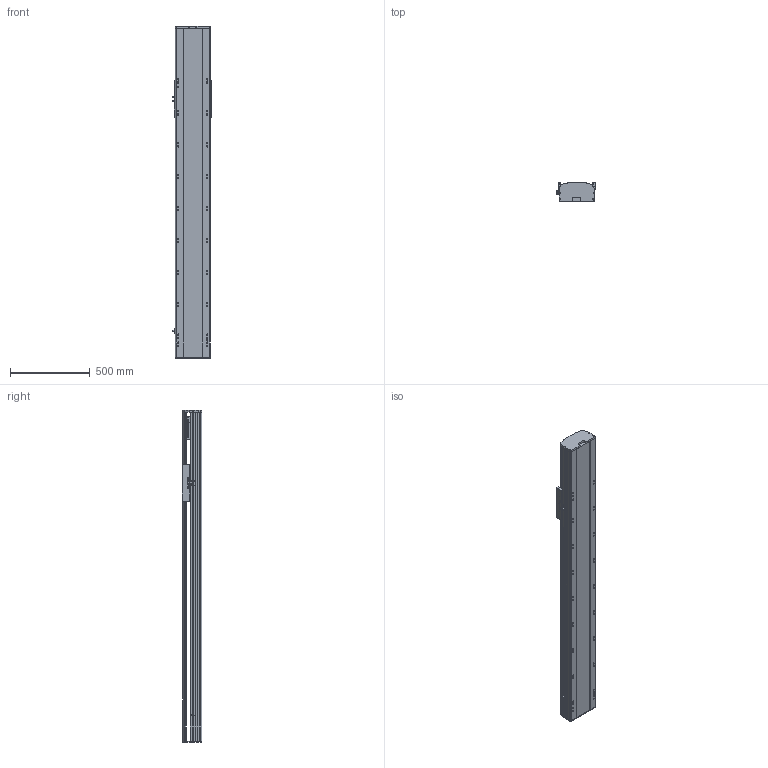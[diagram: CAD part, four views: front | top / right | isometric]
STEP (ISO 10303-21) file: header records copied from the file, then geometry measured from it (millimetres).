
FILE_DESCRIPTION (( 'STEP AP214' ), '1' );
FILE_NAME ('RTH22-XX-1450-B-M75B-C4.STEP', '2025-10-24T10:15:19', ( 'Microsoft' ), ( 'Microsoft' ), 'SwSTEP 2.0', 'SolidWorks 2018', '' );
FILE_SCHEMA (( 'AUTOMOTIVE_DESIGN' ));
Length unit declared in the file: millimetre
Products named in the file (9): N_RTH22-B-011B菁釱^RTH22-XX-XX-B-M75B-C4; N_RTH22-GY-001耜裔^RTH22-XX-XX-B-M75B-C4; RTH22-XX-1450-B-M75B-C4; N_RTH22-B-007B奻裔^RTH22-XX-XX-B-M75B-C4; N_750W萇儂^RTH22-XX-XX-B-M75B-C4; N_RTH22-E-004-SFS25賑釱^RTH22-XX-XX-B-M75B-C4; N_RTH22-B008萇儂啣^RTH22-XX-XX-B-M75B-C4; N_RTH22-GY-013外置感应片^RTH22-XX-XX-B-M75B-C4; N_OMRON EE-SX672 传感器^RTH22-XX-XX-B-M75B-C4
Assembly tree (10 placements, depth 2):
  RTH22-XX-1450-B-M75B-C4
    N_RTH22-B-011B菁釱^RTH22-XX-XX-B-M75B-C4
    N_RTH22-GY-001耜裔^RTH22-XX-XX-B-M75B-C4
    N_750W萇儂^RTH22-XX-XX-B-M75B-C4
    N_RTH22-B008萇儂啣^RTH22-XX-XX-B-M75B-C4
    N_RTH22-B-007B奻裔^RTH22-XX-XX-B-M75B-C4
    N_OMRON EE-SX672 传感器^RTH22-XX-XX-B-M75B-C4  x3
    N_RTH22-GY-013外置感应片^RTH22-XX-XX-B-M75B-C4
    N_RTH22-E-004-SFS25賑釱^RTH22-XX-XX-B-M75B-C4
Bounding box: 238.5 x 122 x 2080 mm (x, y, z)
Volume: 27204634.5 mm3; surface area: 2780995.7 mm2
Topology: 10 solids, 10 shells, 1587 faces, 4350 edges, 2803 vertices
Faces by surface type: plane 760, cylinder 478, bspline 279, cone 70
Entity records: 40065 total; most frequent: CARTESIAN_POINT 12289, ORIENTED_EDGE 5652, DIRECTION 5364, EDGE_CURVE 2826, VERTEX_POINT 1839, AXIS2_PLACEMENT_3D 1830, VECTOR 1704, LINE 1704
